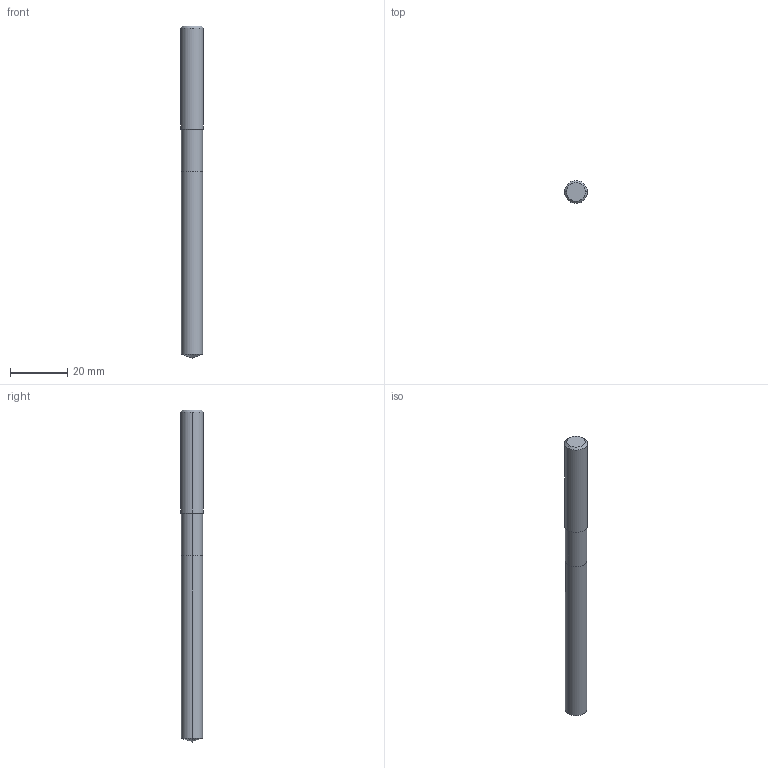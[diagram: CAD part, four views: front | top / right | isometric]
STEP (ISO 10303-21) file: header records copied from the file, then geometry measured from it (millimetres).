
FILE_DESCRIPTION(('STEP AP214'),'1');
FILE_NAME('cctmp_EE22D97F-7E10-42EB-B3DB-E009A7387A19_2020_11_02_13_40_42_0889..stp','2020-11-02T12:40:42',('Meusburger Georg GmbH & Co KG'),('CADClick - www.CADClick.com'),'Spatial InterOp 3D',' ','unknown authorization');
FILE_SCHEMA(('AUTOMOTIVE_DESIGN { 1 0 10303 214 1 1 1 1 }'));
Length unit declared in the file: millimetre
Products named in the file (1): WZB10223_7.4
Bounding box: 8 x 8 x 116 mm (x, y, z)
Volume: 5202.3 mm3; surface area: 2821 mm2
Topology: 1 solids, 1 shells, 14 faces, 28 edges, 15 vertices
Faces by surface type: cylinder 6, cone 6, plane 2
Entity records: 484 total; most frequent: DIRECTION 70, CARTESIAN_POINT 56, ORIENTED_EDGE 52, AXIS2_PLACEMENT_3D 29, EDGE_CURVE 26, STYLED_ITEM 15, PRESENTATION_STYLE_ASSIGNMENT 15, SURFACE_STYLE_USAGE 15
